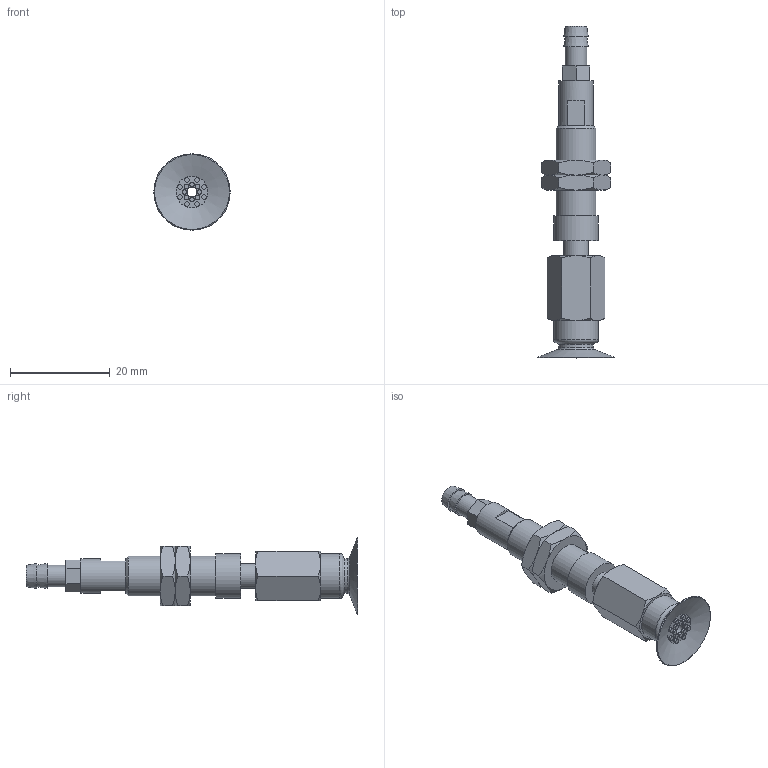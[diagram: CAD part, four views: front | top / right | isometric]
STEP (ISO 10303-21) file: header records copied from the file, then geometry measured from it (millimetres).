
FILE_DESCRIPTION(('STEP AP203'),'1');
FILE_NAME('-T.stp','2025-08-26T08:46:15',(' '),(' '),'Spatial InterOp 3D',' ',' ');
FILE_SCHEMA(('CONFIG_CONTROL_DESIGN'));
Length unit declared in the file: millimetre
Products named in the file (7): BNABPATS-15A-3-※-T; ADAPTER; NAPATS-10A-3--M; NAPATS-10A-3--F; Nut-10A-S; BPAG-15A-※_3D; T
Assembly tree (7 placements, depth 2):
  BNABPATS-15A-3-※-T
    ADAPTER
    NAPATS-10A-3--M
    NAPATS-10A-3--F
    Nut-10A-S  x2
    BPAG-15A-※_3D
    T
Bounding box: 15.3 x 66.5 x 15.3 mm (x, y, z)
Volume: 3584 mm3; surface area: 4548.3 mm2
Topology: 7 solids, 7 shells, 162 faces, 316 edges, 195 vertices
Faces by surface type: plane 69, cone 48, cylinder 36, torus 9
Full cylindrical faces by diameter (mm): 0.9 x16, 2 x3, 3 x1, 4 x2, 4.134 x1, 4.3 x1, 5 x3, 6 x2, 7 x2, 7.188 x2, 8 x1, 9 x2
Entity records: 3746 total; most frequent: CARTESIAN_POINT 799, DIRECTION 568, ORIENTED_EDGE 410, AXIS2_PLACEMENT_3D 264, EDGE_LOOP 232, EDGE_CURVE 205, FACE_OUTER_BOUND 183, VERTEX_POINT 159
